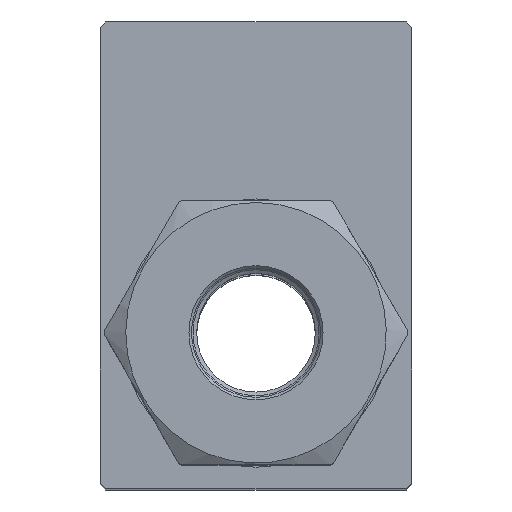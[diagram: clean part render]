
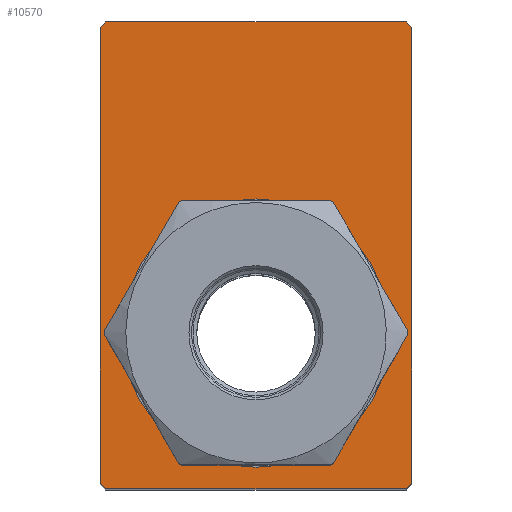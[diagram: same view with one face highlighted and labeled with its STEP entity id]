
A CAD part, top view. The second image highlights one B-rep face of the part: STEP entity #10570.
In plain terms, the highlighted planar face has unit normal (0, 0, 1).
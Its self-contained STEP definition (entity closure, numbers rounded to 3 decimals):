
#219 = VERTEX_POINT ( 'NONE', #20954 ) ;
#254 = DIRECTION ( 'NONE',  ( 0.707, -0.707, 0. ) ) ;
#258 = LINE ( 'NONE', #851, #3086 ) ;
#275 = CARTESIAN_POINT ( 'NONE',  ( 20., -19.3, 50.5 ) ) ;
#282 = EDGE_CURVE ( 'NONE', #17704, #15311, #19577, .T. ) ;
#352 = CARTESIAN_POINT ( 'NONE',  ( -19.65, -19.65, 50.5 ) ) ;
#424 = DIRECTION ( 'NONE',  ( 1., 0., 0. ) ) ;
#589 = CARTESIAN_POINT ( 'NONE',  ( 0., 0., 50.5 ) ) ;
#851 = CARTESIAN_POINT ( 'NONE',  ( -49.65, 9.65, 50.5 ) ) ;
#1047 = EDGE_CURVE ( 'NONE', #9903, #16942, #16015, .T. ) ;
#1614 = CARTESIAN_POINT ( 'NONE',  ( -20., -20., 50.5 ) ) ;
#2486 = VECTOR ( 'NONE', #10633, 1000. ) ;
#3086 = VECTOR ( 'NONE', #15004, 1000. ) ;
#3162 = DIRECTION ( 'NONE',  ( -0.707, 0.707, 0. ) ) ;
#3209 = CARTESIAN_POINT ( 'NONE',  ( 29.65, 29.65, 50.5 ) ) ;
#3297 = VERTEX_POINT ( 'NONE', #5589 ) ;
#3984 = CARTESIAN_POINT ( 'NONE',  ( -0.35, -39.65, 50.5 ) ) ;
#5589 = CARTESIAN_POINT ( 'NONE',  ( 17.25, 0., 50.5 ) ) ;
#5728 = EDGE_CURVE ( 'NONE', #219, #8206, #18370, .T. ) ;
#6203 = CIRCLE ( 'NONE', #8138, 17.25 ) ;
#6833 = CARTESIAN_POINT ( 'NONE',  ( 20., 40., 50.5 ) ) ;
#7239 = DIRECTION ( 'NONE',  ( 0., 1., 0. ) ) ;
#8138 = AXIS2_PLACEMENT_3D ( 'NONE', #589, #10372, #18813 ) ;
#8206 = VERTEX_POINT ( 'NONE', #8620 ) ;
#8232 = ORIENTED_EDGE ( 'NONE', *, *, #21593, .T. ) ;
#8569 = EDGE_CURVE ( 'NONE', #8206, #17130, #18746, .T. ) ;
#8620 = CARTESIAN_POINT ( 'NONE',  ( -20., -19.3, 50.5 ) ) ;
#8697 = CARTESIAN_POINT ( 'NONE',  ( 19.3, -20., 50.5 ) ) ;
#8934 = FACE_OUTER_BOUND ( 'NONE', #17214, .T. ) ;
#9029 = FACE_BOUND ( 'NONE', #15522, .T. ) ;
#9188 = LINE ( 'NONE', #6833, #9227 ) ;
#9227 = VECTOR ( 'NONE', #7239, 1000. ) ;
#9709 = AXIS2_PLACEMENT_3D ( 'NONE', #17332, #17329, #17282 ) ;
#9748 = VECTOR ( 'NONE', #11652, 1000. ) ;
#9903 = VERTEX_POINT ( 'NONE', #15135 ) ;
#10099 = EDGE_CURVE ( 'NONE', #17130, #17704, #18561, .T. ) ;
#10295 = ORIENTED_EDGE ( 'NONE', *, *, #282, .T. ) ;
#10372 = DIRECTION ( 'NONE',  ( 0., 0., 1. ) ) ;
#10570 = ADVANCED_FACE ( 'NONE', ( #8934, #9029 ), #17742, .T. ) ;
#10633 = DIRECTION ( 'NONE',  ( -1., 0., 0. ) ) ;
#10647 = DIRECTION ( 'NONE',  ( 0.707, 0.707, 0. ) ) ;
#11652 = DIRECTION ( 'NONE',  ( 0., -1., 0. ) ) ;
#11723 = CARTESIAN_POINT ( 'NONE',  ( -20., 40., 50.5 ) ) ;
#12187 = ORIENTED_EDGE ( 'NONE', *, *, #10099, .T. ) ;
#12818 = VECTOR ( 'NONE', #3162, 1000. ) ;
#13027 = LINE ( 'NONE', #3209, #12818 ) ;
#13055 = ORIENTED_EDGE ( 'NONE', *, *, #20967, .F. ) ;
#13316 = CARTESIAN_POINT ( 'NONE',  ( -20., 40., 50.5 ) ) ;
#13677 = CARTESIAN_POINT ( 'NONE',  ( -19.3, -20., 50.5 ) ) ;
#13740 = ORIENTED_EDGE ( 'NONE', *, *, #5728, .T. ) ;
#15004 = DIRECTION ( 'NONE',  ( -0.707, -0.707, 0. ) ) ;
#15135 = CARTESIAN_POINT ( 'NONE',  ( 19.3, 40., 50.5 ) ) ;
#15311 = VERTEX_POINT ( 'NONE', #275 ) ;
#15522 = EDGE_LOOP ( 'NONE', ( #13055 ) ) ;
#15581 = ORIENTED_EDGE ( 'NONE', *, *, #8569, .T. ) ;
#16015 = LINE ( 'NONE', #13316, #2486 ) ;
#16032 = EDGE_CURVE ( 'NONE', #15311, #16774, #9188, .T. ) ;
#16241 = CARTESIAN_POINT ( 'NONE',  ( -19.3, 40., 50.5 ) ) ;
#16774 = VERTEX_POINT ( 'NONE', #18415 ) ;
#16942 = VERTEX_POINT ( 'NONE', #16241 ) ;
#17079 = ORIENTED_EDGE ( 'NONE', *, *, #16032, .T. ) ;
#17130 = VERTEX_POINT ( 'NONE', #13677 ) ;
#17214 = EDGE_LOOP ( 'NONE', ( #17079, #18236, #17277, #8232, #13740, #15581, #12187, #10295 ) ) ;
#17277 = ORIENTED_EDGE ( 'NONE', *, *, #1047, .T. ) ;
#17282 = DIRECTION ( 'NONE',  ( 1., 0., 0. ) ) ;
#17329 = DIRECTION ( 'NONE',  ( 0., 0., 1. ) ) ;
#17332 = CARTESIAN_POINT ( 'NONE',  ( -20., -20., 50.5 ) ) ;
#17704 = VERTEX_POINT ( 'NONE', #8697 ) ;
#17719 = VECTOR ( 'NONE', #254, 1000. ) ;
#17742 = PLANE ( 'NONE',  #9709 ) ;
#18070 = EDGE_CURVE ( 'NONE', #16774, #9903, #13027, .T. ) ;
#18146 = VECTOR ( 'NONE', #424, 1000. ) ;
#18236 = ORIENTED_EDGE ( 'NONE', *, *, #18070, .T. ) ;
#18297 = VECTOR ( 'NONE', #10647, 1000. ) ;
#18370 = LINE ( 'NONE', #11723, #9748 ) ;
#18415 = CARTESIAN_POINT ( 'NONE',  ( 20., 39.3, 50.5 ) ) ;
#18561 = LINE ( 'NONE', #1614, #18146 ) ;
#18746 = LINE ( 'NONE', #352, #17719 ) ;
#18813 = DIRECTION ( 'NONE',  ( 1., 0., 0. ) ) ;
#19577 = LINE ( 'NONE', #3984, #18297 ) ;
#20954 = CARTESIAN_POINT ( 'NONE',  ( -20., 39.3, 50.5 ) ) ;
#20967 = EDGE_CURVE ( 'NONE', #3297, #3297, #6203, .T. ) ;
#21593 = EDGE_CURVE ( 'NONE', #16942, #219, #258, .T. ) ;
